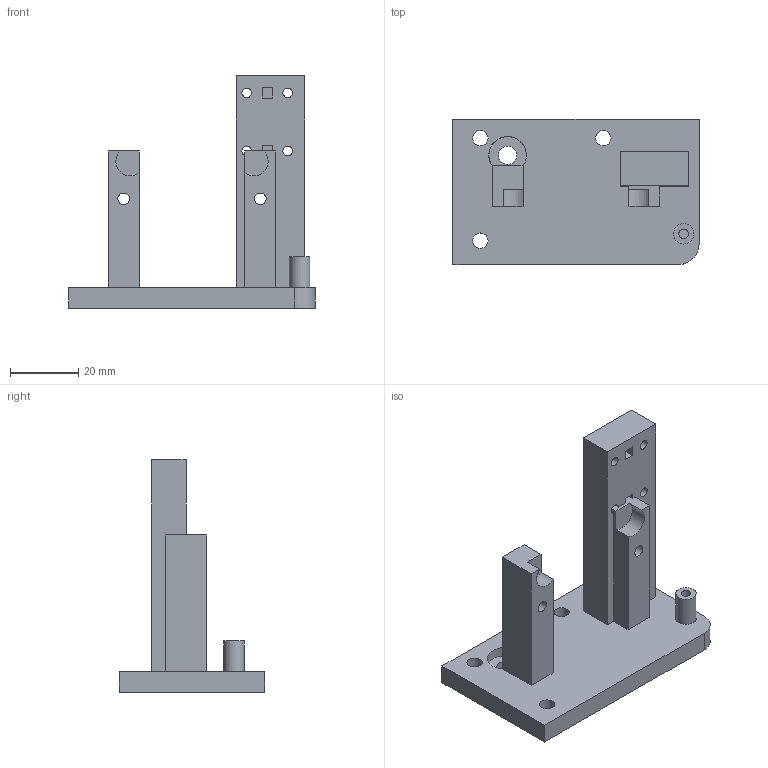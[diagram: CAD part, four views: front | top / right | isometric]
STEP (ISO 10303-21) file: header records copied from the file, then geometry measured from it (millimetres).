
FILE_DESCRIPTION(('Open CASCADE Model'),'2;1');
FILE_NAME('Open CASCADE Shape Model','2026-10-05T06:01:11',('Author'),( 'Open CASCADE'),'Open CASCADE STEP processor 7.8','Open CASCADE 7.8' ,'Unknown');
FILE_SCHEMA(('AUTOMOTIVE_DESIGN { 1 0 10303 214 1 1 1 1 }'));
Length unit declared in the file: millimetre
Products named in the file (1): Open CASCADE STEP translator 7.8 16
Bounding box: 72 x 42.5 x 68 mm (x, y, z)
Volume: 35759 mm3; surface area: 14576.6 mm2
Topology: 1 solids, 1 shells, 52 faces, 135 edges, 89 vertices
Faces by surface type: plane 36, cylinder 16
Full cylindrical faces by diameter (mm): 2.8 x5, 3.4 x2, 4.5 x3, 5.4 x1, 6 x1, 11 x1
Entity records: 3389 total; most frequent: CARTESIAN_POINT 697, DIRECTION 476, LINE 281, VECTOR 281, ORIENTED_EDGE 270, PCURVE 270, DEFINITIONAL_REPRESENTATION 270, EDGE_CURVE 135
